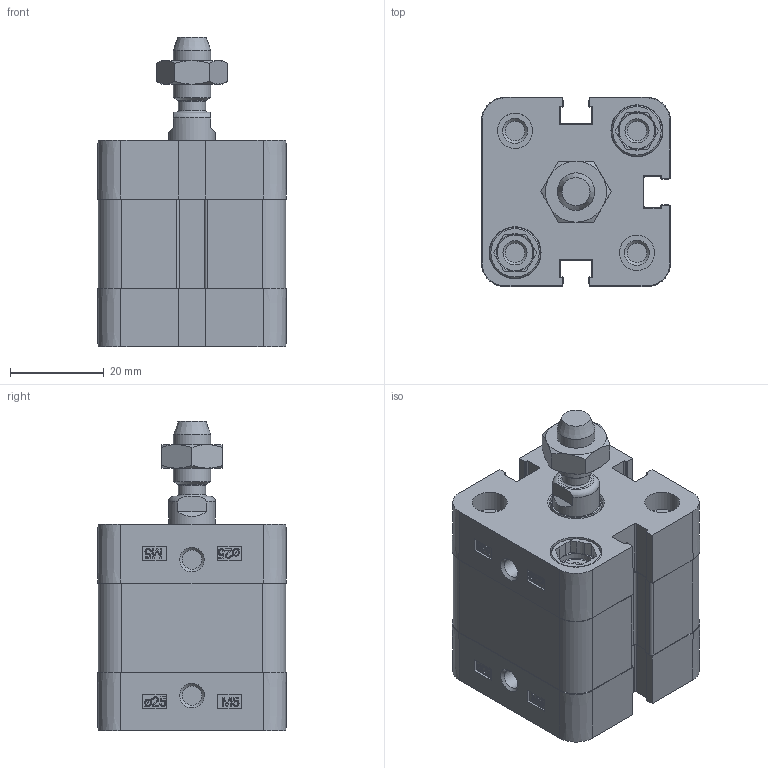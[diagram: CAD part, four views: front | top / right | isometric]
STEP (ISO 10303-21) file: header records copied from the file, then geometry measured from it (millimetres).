
FILE_DESCRIPTION(/* description */ ('Unknown'),/* implementation_level */ '2;1');
FILE_NAME(/* name */ 'ZEF 25_5',/* time_stamp */ '2025-01-24T08:38:29+01:00',/* author */ ('Unknown'),/* organization */ ('HAFNER Pneumatika Kft'),/* preprocessor_version */ 'ST-DEVELOPER v16.7',/* originating_system */ 'Solid Edge',/* authorisation */ 'Unknown');
FILE_SCHEMA (('AUTOMOTIVE_DESIGN {1 0 10303 214 3 1 1}'));
Length unit declared in the file: millimetre
Products named in the file (6): ZEF 25_5; Mutter; Profilrohr; Kolbenstange; Kit_2; Kit_1
Assembly tree (5 placements, depth 2):
  ZEF 25_5
    Mutter
    Profilrohr
    Kolbenstange
    Kit_2
    Kit_1
Bounding box: 40.3 x 40.3 x 66 mm (x, y, z)
Volume: 61886.4 mm3; surface area: 26603.1 mm2
Topology: 5 solids, 11 shells, 609 faces, 1603 edges, 1055 vertices
Faces by surface type: plane 307, cylinder 142, bspline 84, cone 58, torus 18
Full cylindrical faces by diameter (mm): 4.134 x10, 5.8 x1, 6.647 x1, 7.5 x4, 8 x9, 9 x1, 10 x1, 10.48 x1, 10.9 x4, 11.1 x4, 11.4 x1, 12 x1, 13.84 x1, 14 x1, 25 x2
Entity records: 22319 total; most frequent: CARTESIAN_POINT 4293, ORIENTED_EDGE 2958, DIRECTION 2710, EDGE_CURVE 1479, VERTEX_POINT 1025, AXIS2_PLACEMENT_3D 912, LINE 886, VECTOR 886
